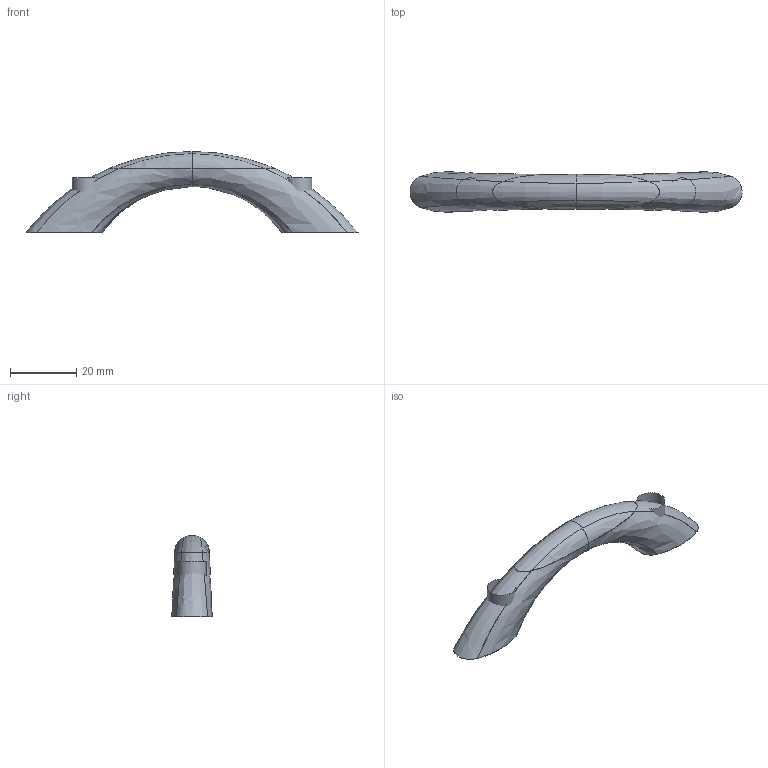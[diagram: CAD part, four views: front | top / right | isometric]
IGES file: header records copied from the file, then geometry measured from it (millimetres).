
Start section: C
Global section: file name: 039-100.igs; native system: By Siemens PLM Incorporated; preprocessor: XPlus GENERIC/IGES 16.0.42; author: Author; organization: Title; date: 20231129.112230; units: millimetre
Bounding box: 100.37 x 12.3 x 24.5 mm (x, y, z)
Surface area: 7942.5 mm2 (no closed solid volume)
Topology: 0 solids, 0 shells, 80 faces, 445 edges, 443 vertices
Faces by surface type: bspline 80
